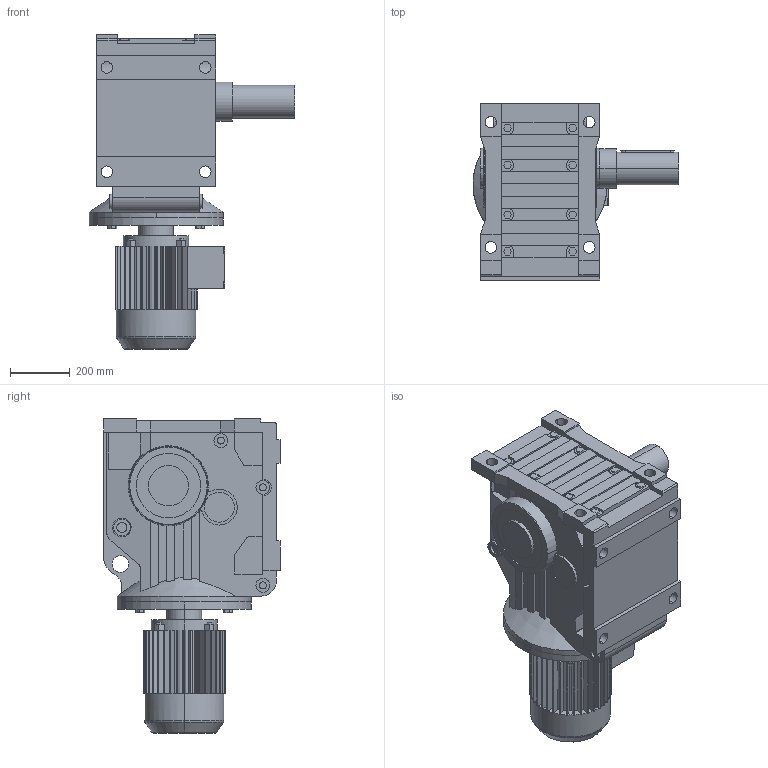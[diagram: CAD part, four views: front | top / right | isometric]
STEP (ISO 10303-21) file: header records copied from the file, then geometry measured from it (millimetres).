
FILE_DESCRIPTION(('Open CASCADE Model'),'2;1');
FILE_NAME('Open CASCADE Shape Model','2021-05-25T16:51:28',('Author'),( 'Open CASCADE'),'Open CASCADE STEP processor 6.3','Open CASCADE 6.3' ,'Unknown');
FILE_SCHEMA(('AUTOMOTIVE_DESIGN_CC2 { 1 2 10303 214 -1 1 5 4 }'));
Length unit declared in the file: millimetre
Products named in the file (4): 1_K127DV160M-A; K37‵157_127.step; 萇儂_450-DV160M-441-553-275-230.step; す瑩妗陑粣K_127.step
Assembly tree (3 placements, depth 2):
  1_K127DV160M-A
    K37‵157_127.step
    萇儂_450-DV160M-441-553-275-230.step
    す瑩妗陑粣K_127.step
Bounding box: 691 x 592 x 1056 mm (x, y, z)
Volume: 129667032.6 mm3; surface area: 3523958.4 mm2
Topology: 3 solids, 3 shells, 834 faces, 2199 edges, 1428 vertices
Faces by surface type: plane 582, cylinder 230, cone 14, torus 8
Entity records: 57486 total; most frequent: CARTESIAN_POINT 15685, DIRECTION 7207, ORIENTED_EDGE 4394, PCURVE 4394, DEFINITIONAL_REPRESENTATION 4394, LINE 3929, VECTOR 3929, EDGE_CURVE 2197
